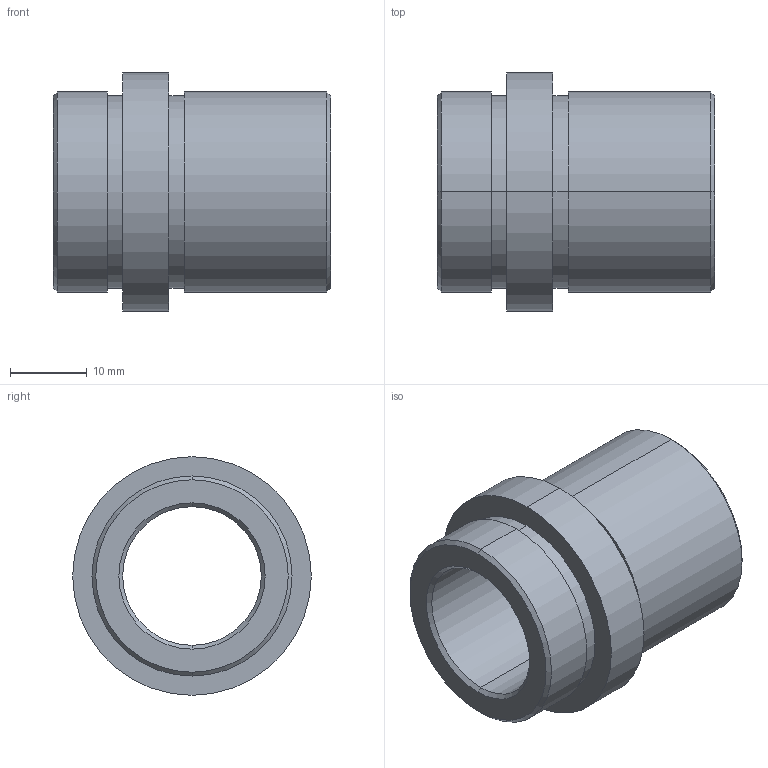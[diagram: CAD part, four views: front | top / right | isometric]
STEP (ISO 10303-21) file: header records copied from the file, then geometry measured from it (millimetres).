
FILE_DESCRIPTION( ( 'STEP AP203' ), '1' );
FILE_NAME( 'D:/Delta 3 D/D21/D21 - 18x27.step', '2002-12-31T22:36:08', ( ' ' ), ( ' ' ), 'XStep 1.0', ' ', ' ' );
FILE_SCHEMA( ( 'CONFIG_CONTROL_DESIGN' ) );
Length unit declared in the file: metre
Products named in the file (1): 1
Bounding box: 36 x 31 x 31 mm (x, y, z)
Volume: 11100.8 mm3; surface area: 6137.8 mm2
Topology: 1 solids, 1 shells, 26 faces, 52 edges, 32 vertices
Faces by surface type: revolution 20, bspline 6
Entity records: 773 total; most frequent: CARTESIAN_POINT 169, DIRECTION 106, ORIENTED_EDGE 104, EDGE_CURVE 52, AXIS2_PLACEMENT_3D 33, EDGE_LOOP 32, VERTEX_POINT 32, CIRCLE 32
